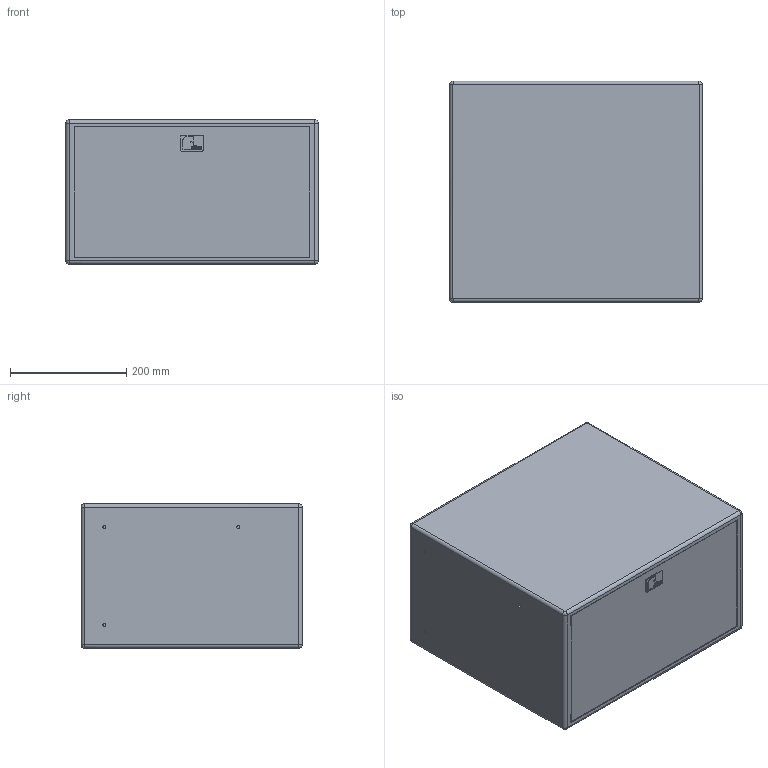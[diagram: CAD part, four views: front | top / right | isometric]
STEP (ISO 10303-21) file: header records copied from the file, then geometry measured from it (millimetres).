
FILE_DESCRIPTION(/* description */ (''),/* implementation_level */ '2;1');
FILE_NAME(/* name */ 'AS-10_LO',/* time_stamp */ '2018-08-09T16:07:24+02:00',/* author */ (''),/* organization */ (''),/* preprocessor_version */ 'ST-DEVELOPER v14',/* originating_system */ '',/* authorisation */ '');
FILE_SCHEMA (('AUTOMOTIVE_DESIGN'));
Length unit declared in the file: millimetre
Products named in the file (1): Document
Bounding box: 434 x 381.3 x 248 mm (x, y, z)
Surface area: 936951.6 mm2 (no closed solid volume)
Topology: 0 solids, 113 shells, 120 faces, 528 edges, 514 vertices
Faces by surface type: bspline 90, plane 30
Entity records: 6506 total; most frequent: CARTESIAN_POINT 3860, ORIENTED_EDGE 542, EDGE_CURVE 528, VERTEX_POINT 514, B_SPLINE_CURVE_WITH_KNOTS 212, EDGE_LOOP 130, ADVANCED_FACE 120, FACE_OUTER_BOUND 120
